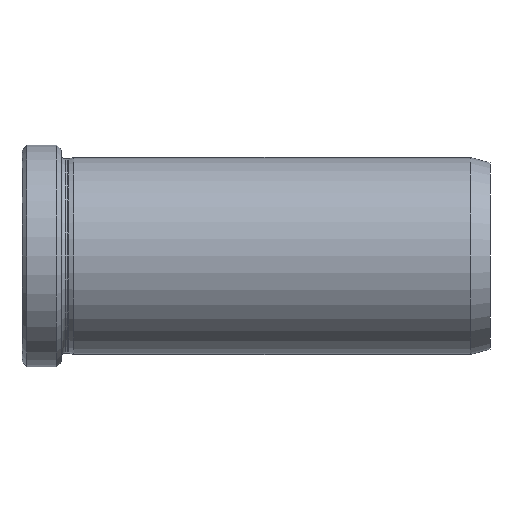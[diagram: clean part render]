
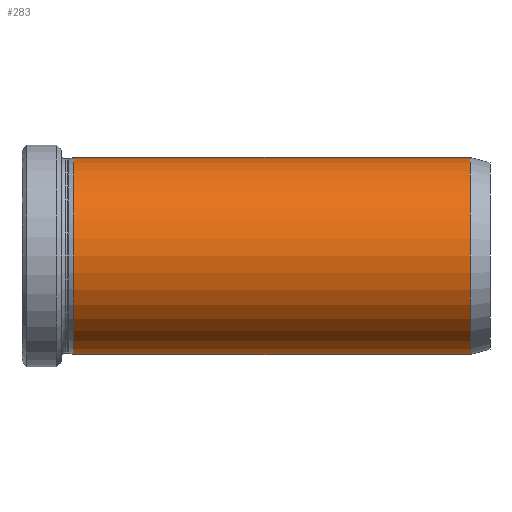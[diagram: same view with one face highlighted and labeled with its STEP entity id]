
A CAD part, front view. The second image highlights one B-rep face of the part: STEP entity #283.
In plain terms, the highlighted cylindrical face has radius 20 mm (diameter 40 mm), a partial arc.
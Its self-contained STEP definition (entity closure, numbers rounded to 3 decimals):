
#34 = CARTESIAN_POINT ( 'NONE',  ( 0., 0., 0. ) ) ;
#37 = EDGE_CURVE ( 'NONE', #673, #44, #522, .T. ) ;
#44 = VERTEX_POINT ( 'NONE', #232 ) ;
#59 = CARTESIAN_POINT ( 'NONE',  ( 0., 0., -20. ) ) ;
#94 = ORIENTED_EDGE ( 'NONE', *, *, #605, .T. ) ;
#132 = CARTESIAN_POINT ( 'NONE',  ( 11.41, 0., -20. ) ) ;
#150 = VECTOR ( 'NONE', #409, 1000. ) ;
#191 = CARTESIAN_POINT ( 'NONE',  ( 91.91, 0., -20. ) ) ;
#209 = VECTOR ( 'NONE', #737, 1000. ) ;
#232 = CARTESIAN_POINT ( 'NONE',  ( 11.41, 0., 20. ) ) ;
#264 = CYLINDRICAL_SURFACE ( 'NONE', #811, 20. ) ;
#283 = ADVANCED_FACE ( 'NONE', ( #752 ), #264, .T. ) ;
#290 = EDGE_LOOP ( 'NONE', ( #313, #94, #463, #513 ) ) ;
#313 = ORIENTED_EDGE ( 'NONE', *, *, #566, .F. ) ;
#319 = AXIS2_PLACEMENT_3D ( 'NONE', #657, #337, #718 ) ;
#337 = DIRECTION ( 'NONE',  ( -1., 0., 0. ) ) ;
#338 = DIRECTION ( 'NONE',  ( -1., 0., 0. ) ) ;
#342 = LINE ( 'NONE', #59, #150 ) ;
#347 = CARTESIAN_POINT ( 'NONE',  ( 11.41, 0., 0. ) ) ;
#409 = DIRECTION ( 'NONE',  ( -1., 0., 0. ) ) ;
#436 = DIRECTION ( 'NONE',  ( 0., 0., 1. ) ) ;
#445 = DIRECTION ( 'NONE',  ( 0., 0., 1. ) ) ;
#463 = ORIENTED_EDGE ( 'NONE', *, *, #828, .T. ) ;
#513 = ORIENTED_EDGE ( 'NONE', *, *, #37, .F. ) ;
#522 = CIRCLE ( 'NONE', #609, 20. ) ;
#566 = EDGE_CURVE ( 'NONE', #585, #673, #342, .T. ) ;
#574 = DIRECTION ( 'NONE',  ( -1., 0., 0. ) ) ;
#585 = VERTEX_POINT ( 'NONE', #191 ) ;
#605 = EDGE_CURVE ( 'NONE', #585, #712, #663, .T. ) ;
#609 = AXIS2_PLACEMENT_3D ( 'NONE', #347, #338, #436 ) ;
#631 = LINE ( 'NONE', #830, #209 ) ;
#657 = CARTESIAN_POINT ( 'NONE',  ( 91.91, 0., 0. ) ) ;
#663 = CIRCLE ( 'NONE', #319, 20. ) ;
#673 = VERTEX_POINT ( 'NONE', #132 ) ;
#712 = VERTEX_POINT ( 'NONE', #713 ) ;
#713 = CARTESIAN_POINT ( 'NONE',  ( 91.91, 0., 20. ) ) ;
#718 = DIRECTION ( 'NONE',  ( 0., 0., 1. ) ) ;
#737 = DIRECTION ( 'NONE',  ( -1., 0., 0. ) ) ;
#752 = FACE_OUTER_BOUND ( 'NONE', #290, .T. ) ;
#811 = AXIS2_PLACEMENT_3D ( 'NONE', #34, #574, #445 ) ;
#828 = EDGE_CURVE ( 'NONE', #712, #44, #631, .T. ) ;
#830 = CARTESIAN_POINT ( 'NONE',  ( 0., 0., 20. ) ) ;
